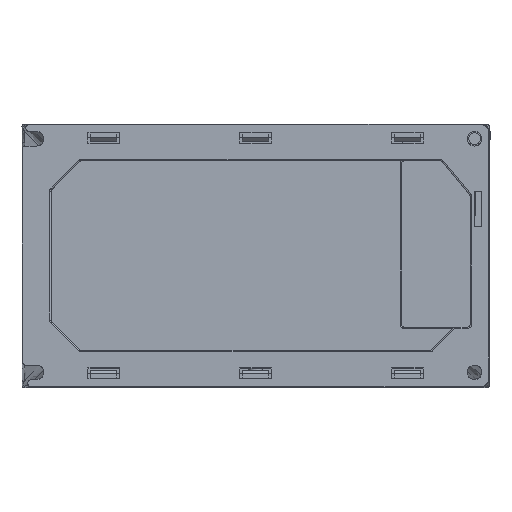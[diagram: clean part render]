
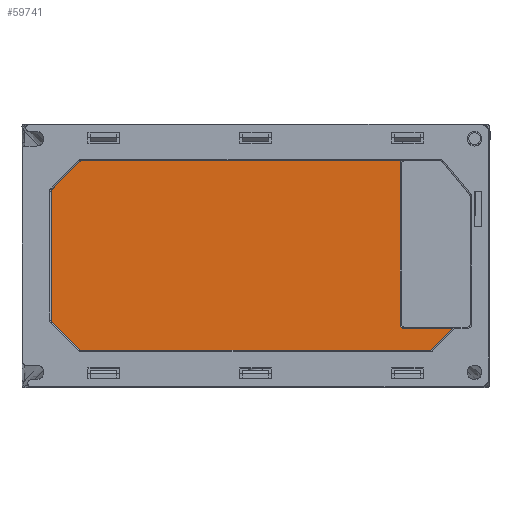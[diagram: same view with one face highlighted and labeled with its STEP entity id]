
A CAD part, top view. The second image highlights one B-rep face of the part: STEP entity #59741.
In plain terms, the highlighted planar face has unit normal (0, 0, 1).
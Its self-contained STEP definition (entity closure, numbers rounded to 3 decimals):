
#18466=DIRECTION('',(-1.,0.,0.));
#18467=VECTOR('',#18466,16.5);
#18468=CARTESIAN_POINT('',(67.5,-25.,-2.));
#18469=LINE('',#18468,#18467);
#18474=DIRECTION('',(-0.707,-0.707,0.));
#18475=VECTOR('',#18474,10.192);
#18476=CARTESIAN_POINT('',(67.5,-25.,-2.));
#18477=LINE('',#18476,#18475);
#18478=CARTESIAN_POINT('',(59.586,-31.5,-2.));
#18479=DIRECTION('',(0.,0.,-1.));
#18480=DIRECTION('',(0.707,-0.707,0.));
#18481=AXIS2_PLACEMENT_3D('',#18478,#18479,#18480);
#18483=DIRECTION('',(-1.,0.,0.));
#18484=VECTOR('',#18483,119.172);
#18485=CARTESIAN_POINT('',(59.586,-32.5,-2.));
#18486=LINE('',#18485,#18484);
#18487=CARTESIAN_POINT('',(-59.586,-31.5,-2.));
#18488=DIRECTION('',(0.,0.,-1.));
#18489=DIRECTION('',(0.,-1.,0.));
#18490=AXIS2_PLACEMENT_3D('',#18487,#18488,#18489);
#18492=DIRECTION('',(-0.707,0.707,0.));
#18493=VECTOR('',#18492,13.314);
#18494=CARTESIAN_POINT('',(-60.293,-32.207,-2.));
#18495=LINE('',#18494,#18493);
#18496=CARTESIAN_POINT('',(-69.,-22.086,-2.));
#18497=DIRECTION('',(0.,0.,-1.));
#18498=DIRECTION('',(-0.707,-0.707,0.));
#18499=AXIS2_PLACEMENT_3D('',#18496,#18497,#18498);
#18501=DIRECTION('',(0.,1.,0.));
#18502=VECTOR('',#18501,44.172);
#18503=CARTESIAN_POINT('',(-70.,-22.086,-2.));
#18504=LINE('',#18503,#18502);
#18505=CARTESIAN_POINT('',(-69.,22.086,-2.));
#18506=DIRECTION('',(0.,0.,-1.));
#18507=DIRECTION('',(-1.,0.,0.));
#18508=AXIS2_PLACEMENT_3D('',#18505,#18506,#18507);
#18510=DIRECTION('',(0.707,0.707,0.));
#18511=VECTOR('',#18510,13.314);
#18512=CARTESIAN_POINT('',(-69.707,22.793,-2.));
#18513=LINE('',#18512,#18511);
#18514=CARTESIAN_POINT('',(-59.586,31.5,-2.));
#18515=DIRECTION('',(0.,0.,-1.));
#18516=DIRECTION('',(-0.707,0.707,0.));
#18517=AXIS2_PLACEMENT_3D('',#18514,#18515,#18516);
#18519=CARTESIAN_POINT('',(51.,31.5,-2.));
#18520=DIRECTION('',(0.,0.,1.));
#18521=DIRECTION('',(-0.745,0.667,0.));
#18522=AXIS2_PLACEMENT_3D('',#18519,#18520,#18521);
#18524=CARTESIAN_POINT('',(51.,-23.5,-2.));
#18525=DIRECTION('',(0.,0.,1.));
#18526=DIRECTION('',(-1.,0.,0.));
#18527=AXIS2_PLACEMENT_3D('',#18524,#18525,#18526);
#18721=DIRECTION('',(-1.,0.,0.));
#18722=VECTOR('',#18721,109.468);
#18723=CARTESIAN_POINT('',(49.882,32.5,-2.));
#18724=LINE('',#18723,#18722);
#18752=DIRECTION('',(0.,1.,0.));
#18753=VECTOR('',#18752,55.);
#18754=CARTESIAN_POINT('',(49.5,-23.5,-2.));
#18755=LINE('',#18754,#18753);
#24679=CARTESIAN_POINT('',(67.5,-25.,-2.));
#24680=CARTESIAN_POINT('',(51.,-25.,-2.));
#24681=VERTEX_POINT('',#24679);
#24682=VERTEX_POINT('',#24680);
#24684=CARTESIAN_POINT('',(60.293,-32.207,-2.));
#24685=VERTEX_POINT('',#24684);
#24686=CARTESIAN_POINT('',(59.586,-32.5,-2.));
#24687=VERTEX_POINT('',#24686);
#24688=CARTESIAN_POINT('',(-59.586,-32.5,-2.));
#24689=VERTEX_POINT('',#24688);
#24690=CARTESIAN_POINT('',(-60.293,-32.207,-2.));
#24691=VERTEX_POINT('',#24690);
#24692=CARTESIAN_POINT('',(-69.707,-22.793,-2.));
#24693=VERTEX_POINT('',#24692);
#24694=CARTESIAN_POINT('',(-70.,-22.086,-2.));
#24695=VERTEX_POINT('',#24694);
#24696=CARTESIAN_POINT('',(-70.,22.086,-2.));
#24697=VERTEX_POINT('',#24696);
#24698=CARTESIAN_POINT('',(-69.707,22.793,-2.));
#24699=VERTEX_POINT('',#24698);
#24700=CARTESIAN_POINT('',(-60.293,32.207,-2.));
#24701=VERTEX_POINT('',#24700);
#24702=CARTESIAN_POINT('',(-59.586,32.5,-2.));
#24703=VERTEX_POINT('',#24702);
#24704=CARTESIAN_POINT('',(49.882,32.5,-2.));
#24705=VERTEX_POINT('',#24704);
#24706=CARTESIAN_POINT('',(49.5,31.5,-2.));
#24707=VERTEX_POINT('',#24706);
#24708=CARTESIAN_POINT('',(49.5,-23.5,-2.));
#24709=VERTEX_POINT('',#24708);
#59705=CARTESIAN_POINT('',(0.,0.,-2.));
#59706=DIRECTION('',(0.,0.,1.));
#59707=DIRECTION('',(-1.,0.,0.));
#59708=AXIS2_PLACEMENT_3D('',#59705,#59706,#59707);
#59709=PLANE('',#59708);
#59710=ORIENTED_EDGE('',*,*,#59693,.F.);
#59712=ORIENTED_EDGE('',*,*,#59711,.T.);
#59714=ORIENTED_EDGE('',*,*,#59713,.T.);
#59716=ORIENTED_EDGE('',*,*,#59715,.T.);
#59718=ORIENTED_EDGE('',*,*,#59717,.T.);
#59720=ORIENTED_EDGE('',*,*,#59719,.T.);
#59722=ORIENTED_EDGE('',*,*,#59721,.T.);
#59724=ORIENTED_EDGE('',*,*,#59723,.T.);
#59726=ORIENTED_EDGE('',*,*,#59725,.T.);
#59728=ORIENTED_EDGE('',*,*,#59727,.T.);
#59730=ORIENTED_EDGE('',*,*,#59729,.T.);
#59732=ORIENTED_EDGE('',*,*,#59731,.F.);
#59734=ORIENTED_EDGE('',*,*,#59733,.T.);
#59736=ORIENTED_EDGE('',*,*,#59735,.F.);
#59738=ORIENTED_EDGE('',*,*,#59737,.T.);
#59739=EDGE_LOOP('',(#59710,#59712,#59714,#59716,#59718,#59720,#59722,#59724,
#59726,#59728,#59730,#59732,#59734,#59736,#59738));
#59740=FACE_OUTER_BOUND('',#59739,.F.);
#18482=CIRCLE('',#18481,1.);
#18491=CIRCLE('',#18490,1.);
#18500=CIRCLE('',#18499,1.);
#18509=CIRCLE('',#18508,1.);
#18518=CIRCLE('',#18517,1.);
#18523=CIRCLE('',#18522,1.5);
#18528=CIRCLE('',#18527,1.5);
#59693=EDGE_CURVE('',#24681,#24682,#18469,.T.);
#59711=EDGE_CURVE('',#24681,#24685,#18477,.T.);
#59713=EDGE_CURVE('',#24685,#24687,#18482,.T.);
#59715=EDGE_CURVE('',#24687,#24689,#18486,.T.);
#59717=EDGE_CURVE('',#24689,#24691,#18491,.T.);
#59719=EDGE_CURVE('',#24691,#24693,#18495,.T.);
#59721=EDGE_CURVE('',#24693,#24695,#18500,.T.);
#59723=EDGE_CURVE('',#24695,#24697,#18504,.T.);
#59725=EDGE_CURVE('',#24697,#24699,#18509,.T.);
#59727=EDGE_CURVE('',#24699,#24701,#18513,.T.);
#59729=EDGE_CURVE('',#24701,#24703,#18518,.T.);
#59731=EDGE_CURVE('',#24705,#24703,#18724,.T.);
#59733=EDGE_CURVE('',#24705,#24707,#18523,.T.);
#59735=EDGE_CURVE('',#24709,#24707,#18755,.T.);
#59737=EDGE_CURVE('',#24709,#24682,#18528,.T.);
#59741=ADVANCED_FACE('',(#59740),#59709,.T.);
